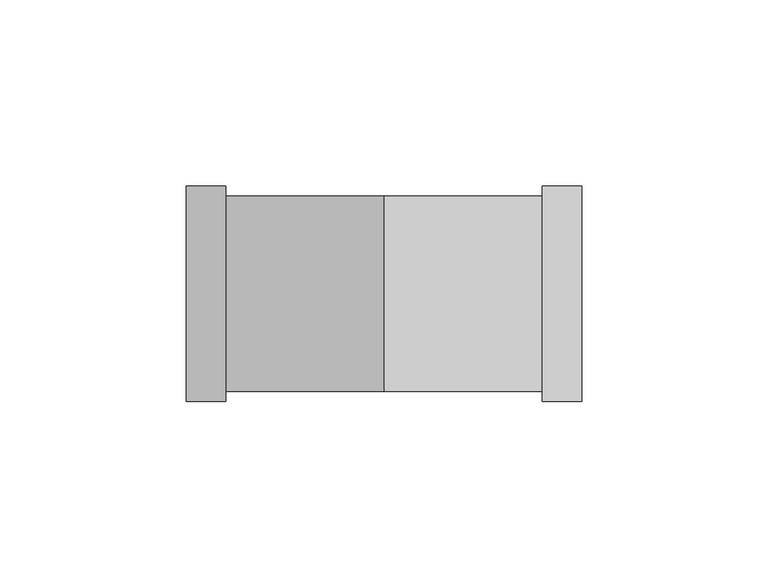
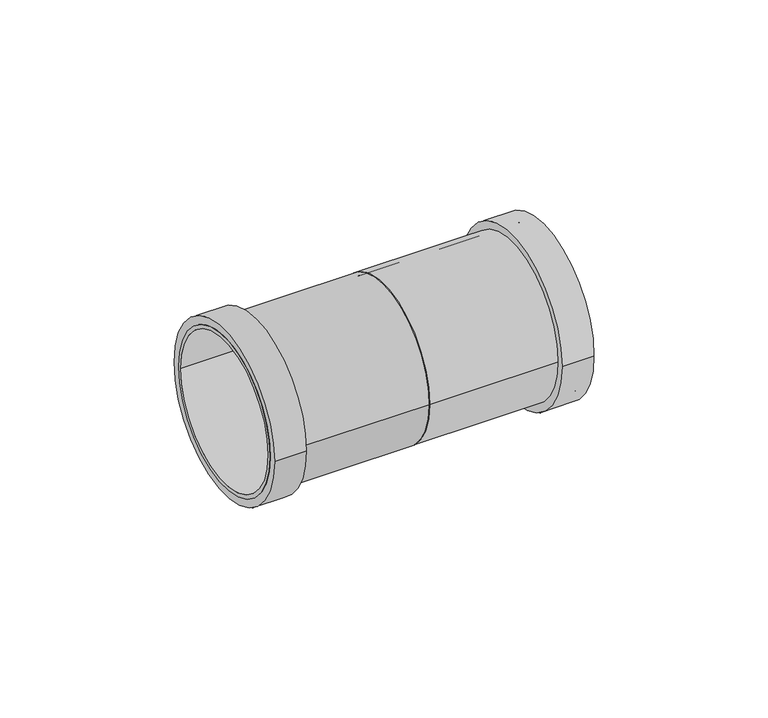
"""IFC4 building model written with IfcOpenShell, lengths in millimetres: pipe fitting geometry, Superdrain HTU-coupler : Superdrain HTU-coupler."""

from ifc_helpers import new_model, si_unit, point, frame, origin, origin_2d, place, context, project, spatial, circle_curve, trimmed, segment, composite_curve, outline, extrude, source, transform, mapped, element, save


def pipe_fitting_963da66b(model_context):
    return source(origin(), model_context, "Body", "SweptSolid", [
        extrude(outline(composite_curve([segment(trimmed(circle_curve(origin_2d(), 26.25), [point((26.25, 0.0))], [point((-26.25, 0.0))], False, "CARTESIAN"), True, "CONTINUOUS"), segment(trimmed(circle_curve(origin_2d(), 26.25), [point((-26.25, 0.0))], [point((26.25, 0.0))], False, "CARTESIAN"), True, "CONTINUOUS")], self_intersect=False), holes=[composite_curve([segment(trimmed(circle_curve(origin_2d(), 25.0), [point((25.0, 0.0))], [point((-25.0, 0.0))], True, "CARTESIAN"), True, "CONTINUOUS"), segment(trimmed(circle_curve(origin_2d(), 25.0), [point((-25.0, 0.0))], [point((25.0, 0.0))], True, "CARTESIAN"), True, "CONTINUOUS")], self_intersect=False)]), frame((0.0, 0.0, 0.0), z_axis=(1.0, 0.0, 0.0), x_axis=(0.0, 1.0, 0.0)), (0.0, 0.0, 1.0), 53.0),
        extrude(outline(composite_curve([segment(trimmed(circle_curve(origin_2d(), 28.875), [point((28.875, 0.0))], [point((-28.875, 0.0))], False, "CARTESIAN"), True, "CONTINUOUS"), segment(trimmed(circle_curve(origin_2d(), 28.875), [point((-28.875, 0.0))], [point((28.875, 0.0))], False, "CARTESIAN"), True, "CONTINUOUS")], self_intersect=False), holes=[composite_curve([segment(trimmed(circle_curve(origin_2d(), 25.0), [point((25.0, 0.0))], [point((-25.0, 0.0))], True, "CARTESIAN"), True, "CONTINUOUS"), segment(trimmed(circle_curve(origin_2d(), 25.0), [point((-25.0, 0.0))], [point((25.0, 0.0))], True, "CARTESIAN"), True, "CONTINUOUS")], self_intersect=False)]), frame((42.4, 0.0, 0.0), z_axis=(1.0, 0.0, 0.0), x_axis=(0.0, 1.0, 0.0)), (0.0, 0.0, 1.0), 10.6),
        extrude(outline(composite_curve([segment(trimmed(circle_curve(origin_2d(), 26.25), [point((-26.25, 0.0))], [point((26.25, 0.0))], False, "CARTESIAN"), True, "CONTINUOUS"), segment(trimmed(circle_curve(origin_2d(), 26.25), [point((26.25, 0.0))], [point((-26.25, 0.0))], False, "CARTESIAN"), True, "CONTINUOUS")], self_intersect=False), holes=[composite_curve([segment(trimmed(circle_curve(origin_2d(), 25.0), [point((-25.0, 0.0))], [point((25.0, 0.0))], True, "CARTESIAN"), True, "CONTINUOUS"), segment(trimmed(circle_curve(origin_2d(), 25.0), [point((25.0, 0.0))], [point((-25.0, 0.0))], True, "CARTESIAN"), True, "CONTINUOUS")], self_intersect=False)]), frame((-53.0, 0.0, 0.0), z_axis=(1.0, 0.0, 0.0), x_axis=(0.0, 1.0, 0.0)), (0.0, 0.0, 1.0), 53.0),
        extrude(outline(composite_curve([segment(trimmed(circle_curve(origin_2d(), 28.875), [point((-28.875, 0.0))], [point((28.875, 0.0))], False, "CARTESIAN"), True, "CONTINUOUS"), segment(trimmed(circle_curve(origin_2d(), 28.875), [point((28.875, 0.0))], [point((-28.875, 0.0))], False, "CARTESIAN"), True, "CONTINUOUS")], self_intersect=False), holes=[composite_curve([segment(trimmed(circle_curve(origin_2d(), 25.0), [point((-25.0, 0.0))], [point((25.0, 0.0))], True, "CARTESIAN"), True, "CONTINUOUS"), segment(trimmed(circle_curve(origin_2d(), 25.0), [point((25.0, 0.0))], [point((-25.0, 0.0))], True, "CARTESIAN"), True, "CONTINUOUS")], self_intersect=False)]), frame((-53.0, 0.0, 0.0), z_axis=(1.0, 0.0, 0.0), x_axis=(0.0, 1.0, 0.0)), (0.0, 0.0, 1.0), 10.6),
    ])


if __name__ == "__main__":
    model = new_model("IFC4")
    model_context = context("Model", 3, world=origin())
    ifc_project = project(units=[si_unit("LENGTHUNIT", "METRE", prefix="MILLI")], contexts=[model_context])
    site = spatial("IfcSite", under=ifc_project)
    building = spatial("IfcBuilding", under=site)
    placement = place(None, origin())
    pipe_fitting_shape = pipe_fitting_963da66b(model_context)
    element("IfcPipeFitting", 1, ObjectType="Superdrain HTU-coupler : Superdrain HTU-coupler", at=placement, inside=building, context=model_context, shape_type="MappedRepresentation", body=[
        mapped(pipe_fitting_shape, transform((0.0, 0.0, 0.0), x_axis=(1.0, 0.0, 0.0), y_axis=(0.0, 1.0, 0.0), z_axis=(0.0, 0.0, 1.0))),
    ])
    save(model, "model.ifc")
